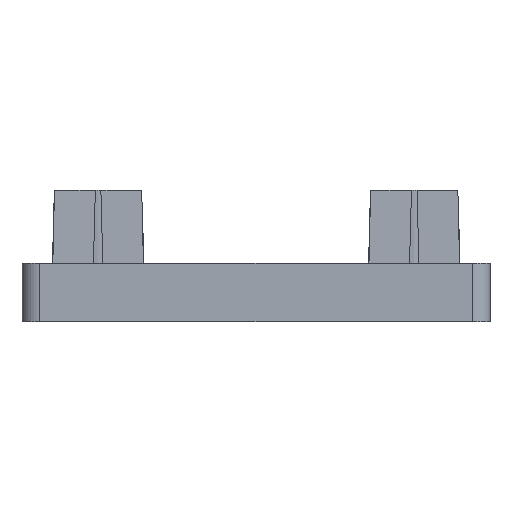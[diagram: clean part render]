
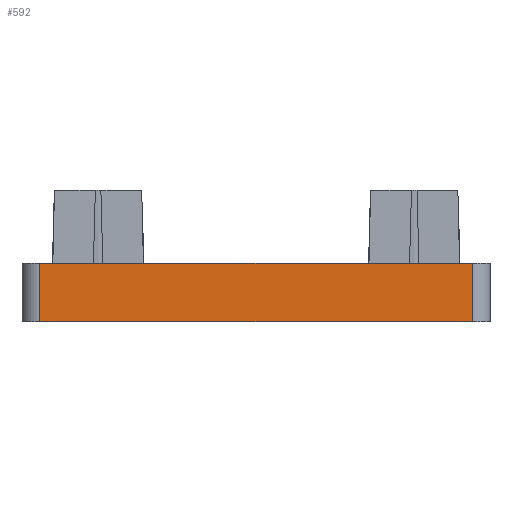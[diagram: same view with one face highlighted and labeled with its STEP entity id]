
A CAD part, front view. The second image highlights one B-rep face of the part: STEP entity #592.
In plain terms, the highlighted planar face has unit normal (0, -1, 0).
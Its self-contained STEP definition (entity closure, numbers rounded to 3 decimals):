
#10 = DIRECTION ( 'NONE',  ( 0., 0., 1. ) ) ;
#37 = DIRECTION ( 'NONE',  ( 0., 0., 1. ) ) ;
#49 = VECTOR ( 'NONE', #587, 1000. ) ;
#52 = EDGE_CURVE ( 'NONE', #1076, #936, #2033, .T. ) ;
#175 = ORIENTED_EDGE ( 'NONE', *, *, #1632, .F. ) ;
#221 = CARTESIAN_POINT ( 'NONE',  ( 1.5, 0., 5. ) ) ;
#351 = FACE_OUTER_BOUND ( 'NONE', #1862, .T. ) ;
#366 = CARTESIAN_POINT ( 'NONE',  ( 0., 0., 0. ) ) ;
#517 = LINE ( 'NONE', #989, #1539 ) ;
#543 = VECTOR ( 'NONE', #1051, 1000. ) ;
#574 = DIRECTION ( 'NONE',  ( 1., 0., 0. ) ) ;
#587 = DIRECTION ( 'NONE',  ( 0., 0., -1. ) ) ;
#592 = ADVANCED_FACE ( 'NONE', ( #351 ), #818, .F. ) ;
#684 = CARTESIAN_POINT ( 'NONE',  ( 1.5, 0., 0. ) ) ;
#791 = ORIENTED_EDGE ( 'NONE', *, *, #2005, .F. ) ;
#793 = ORIENTED_EDGE ( 'NONE', *, *, #52, .T. ) ;
#818 = PLANE ( 'NONE',  #863 ) ;
#863 = AXIS2_PLACEMENT_3D ( 'NONE', #366, #1473, #37 ) ;
#936 = VERTEX_POINT ( 'NONE', #684 ) ;
#989 = CARTESIAN_POINT ( 'NONE',  ( 38.471, 0., 5. ) ) ;
#1051 = DIRECTION ( 'NONE',  ( -1., 0., 0. ) ) ;
#1076 = VERTEX_POINT ( 'NONE', #221 ) ;
#1077 = CARTESIAN_POINT ( 'NONE',  ( 1.5, 0., 0. ) ) ;
#1207 = LINE ( 'NONE', #1358, #543 ) ;
#1358 = CARTESIAN_POINT ( 'NONE',  ( 40., 0., 0. ) ) ;
#1364 = EDGE_CURVE ( 'NONE', #1453, #1697, #517, .T. ) ;
#1453 = VERTEX_POINT ( 'NONE', #1497 ) ;
#1454 = CARTESIAN_POINT ( 'NONE',  ( 38.471, 0., 5. ) ) ;
#1473 = DIRECTION ( 'NONE',  ( 0., 1., 0. ) ) ;
#1497 = CARTESIAN_POINT ( 'NONE',  ( 38.471, 0., 0. ) ) ;
#1539 = VECTOR ( 'NONE', #10, 1000. ) ;
#1592 = ORIENTED_EDGE ( 'NONE', *, *, #1364, .T. ) ;
#1632 = EDGE_CURVE ( 'NONE', #1076, #1697, #2001, .T. ) ;
#1697 = VERTEX_POINT ( 'NONE', #1454 ) ;
#1707 = VECTOR ( 'NONE', #574, 1000. ) ;
#1862 = EDGE_LOOP ( 'NONE', ( #791, #1592, #175, #793 ) ) ;
#2001 = LINE ( 'NONE', #2019, #1707 ) ;
#2005 = EDGE_CURVE ( 'NONE', #1453, #936, #1207, .T. ) ;
#2019 = CARTESIAN_POINT ( 'NONE',  ( 0., 0., 5. ) ) ;
#2033 = LINE ( 'NONE', #1077, #49 ) ;
